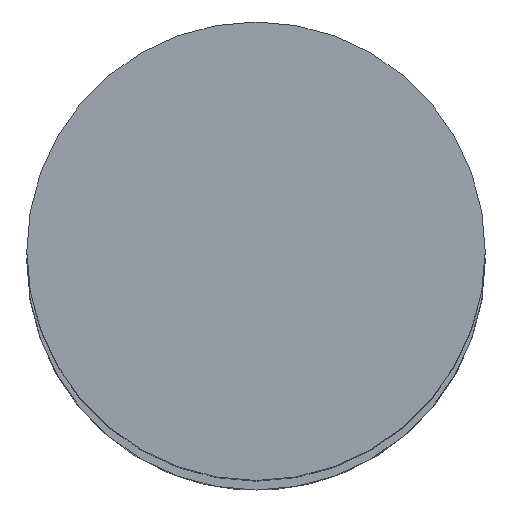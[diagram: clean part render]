
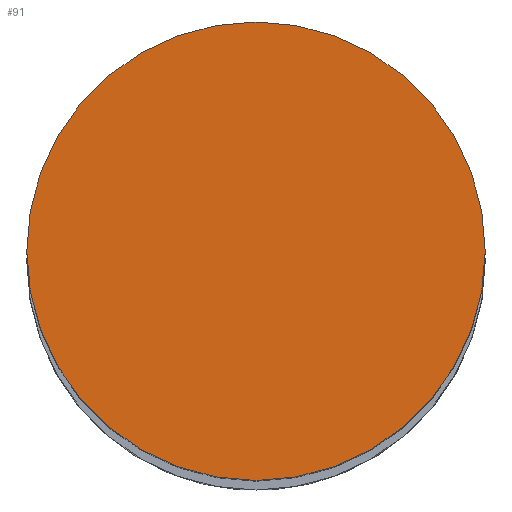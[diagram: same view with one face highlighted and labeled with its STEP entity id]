
A CAD part, top view. The second image highlights one B-rep face of the part: STEP entity #91.
In plain terms, the highlighted planar face has unit normal (0, 0, 1).
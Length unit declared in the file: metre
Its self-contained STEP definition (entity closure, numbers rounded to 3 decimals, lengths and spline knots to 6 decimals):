
#91=ADVANCED_FACE('0:129',(#181),#182,.T.);
#181=FACE_OUTER_BOUND('',#273,.T.);
#182=PLANE('',#274);
#273=EDGE_LOOP('',(#438,#439));
#274=AXIS2_PLACEMENT_3D('',#440,#441,#442);
#438=ORIENTED_EDGE('',*,*,#503,.F.);
#439=ORIENTED_EDGE('',*,*,#551,.F.);
#440=CARTESIAN_POINT('',(0.,0.,0.119));
#441=DIRECTION('',(0.0,0.0,1.0));
#442=DIRECTION('',(1.0,0.0,0.0));
#503=EDGE_CURVE('13:581',#587,#583,#589,.F.);
#551=EDGE_CURVE('',#583,#587,#658,.F.);
#583=VERTEX_POINT('',#707);
#587=VERTEX_POINT('',#712);
#589=CIRCLE('',#715,0.008);
#658=CIRCLE('',#798,0.008);
#707=CARTESIAN_POINT('',(0.00789,0.000133,0.119));
#712=CARTESIAN_POINT('',(-0.00811,0.000133,0.119));
#715=AXIS2_PLACEMENT_3D('',#856,#857,#858);
#798=AXIS2_PLACEMENT_3D('',#927,#928,#929);
#856=CARTESIAN_POINT('',(-0.00011,0.000133,0.119));
#857=DIRECTION('',(0.0,0.0,1.0));
#858=DIRECTION('',(1.0,0.0,0.0));
#927=CARTESIAN_POINT('',(-0.00011,0.000133,0.119));
#928=DIRECTION('',(0.0,0.0,1.0));
#929=DIRECTION('',(1.0,0.0,0.0));
